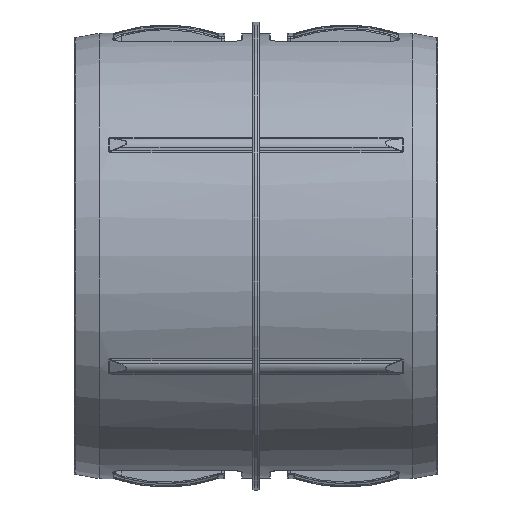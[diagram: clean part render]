
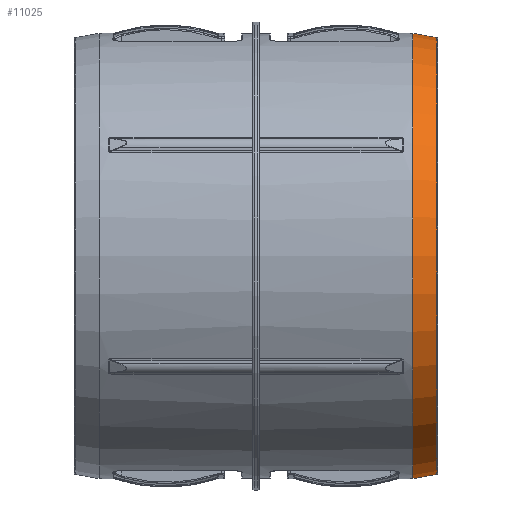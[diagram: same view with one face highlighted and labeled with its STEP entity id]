
A CAD part, top view. The second image highlights one B-rep face of the part: STEP entity #11025.
In plain terms, the highlighted conical face has half-angle 10 degrees and reference radius 66.728 mm.
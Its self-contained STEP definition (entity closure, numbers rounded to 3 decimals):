
#1286 = EDGE_CURVE ( 'NONE', #8245, #7860, #5102, .T. ) ;
#1535 = AXIS2_PLACEMENT_3D ( 'NONE', #4252, #14344, #5750 ) ;
#2096 = AXIS2_PLACEMENT_3D ( 'NONE', #10943, #10857, #15254 ) ;
#3222 = EDGE_LOOP ( 'NONE', ( #8310, #7821, #5783, #9798 ) ) ;
#3589 = DIRECTION ( 'NONE',  ( -0.985, -0.174, 0. ) ) ;
#4147 = FACE_OUTER_BOUND ( 'NONE', #3222, .T. ) ;
#4252 = CARTESIAN_POINT ( 'NONE',  ( 55.5, 0., 0. ) ) ;
#5080 = CONICAL_SURFACE ( 'NONE', #1535, 66.728, 0.175 ) ;
#5102 = LINE ( 'NONE', #16432, #9618 ) ;
#5379 = VECTOR ( 'NONE', #12195, 1000. ) ;
#5750 = DIRECTION ( 'NONE',  ( 0., -1., 0. ) ) ;
#5783 = ORIENTED_EDGE ( 'NONE', *, *, #9424, .F. ) ;
#6911 = AXIS2_PLACEMENT_3D ( 'NONE', #10094, #8612, #14302 ) ;
#7303 = VERTEX_POINT ( 'NONE', #13898 ) ;
#7821 = ORIENTED_EDGE ( 'NONE', *, *, #8292, .T. ) ;
#7860 = VERTEX_POINT ( 'NONE', #13945 ) ;
#8245 = VERTEX_POINT ( 'NONE', #14533 ) ;
#8292 = EDGE_CURVE ( 'NONE', #7303, #18059, #13409, .T. ) ;
#8310 = ORIENTED_EDGE ( 'NONE', *, *, #12923, .T. ) ;
#8612 = DIRECTION ( 'NONE',  ( -1., 0., 0. ) ) ;
#9424 = EDGE_CURVE ( 'NONE', #7860, #18059, #11386, .T. ) ;
#9618 = VECTOR ( 'NONE', #3589, 1000. ) ;
#9798 = ORIENTED_EDGE ( 'NONE', *, *, #1286, .F. ) ;
#10094 = CARTESIAN_POINT ( 'NONE',  ( 55.335, 0., 0. ) ) ;
#10201 = CIRCLE ( 'NONE', #6911, 66.757 ) ;
#10857 = DIRECTION ( 'NONE',  ( -1., 0., 0. ) ) ;
#10943 = CARTESIAN_POINT ( 'NONE',  ( 48., 0., 0. ) ) ;
#11025 = ADVANCED_FACE ( 'NONE', ( #4147 ), #5080, .T. ) ;
#11386 = CIRCLE ( 'NONE', #2096, 68.05 ) ;
#12195 = DIRECTION ( 'NONE',  ( -0.985, 0.174, 0. ) ) ;
#12923 = EDGE_CURVE ( 'NONE', #8245, #7303, #10201, .T. ) ;
#13409 = LINE ( 'NONE', #16408, #5379 ) ;
#13898 = CARTESIAN_POINT ( 'NONE',  ( 55.335, 66.757, 0. ) ) ;
#13945 = CARTESIAN_POINT ( 'NONE',  ( 48., -68.05, 0. ) ) ;
#14302 = DIRECTION ( 'NONE',  ( 0., 1., 0. ) ) ;
#14344 = DIRECTION ( 'NONE',  ( -1., 0., 0. ) ) ;
#14533 = CARTESIAN_POINT ( 'NONE',  ( 55.335, -66.757, 0. ) ) ;
#15254 = DIRECTION ( 'NONE',  ( 0., -1., 0. ) ) ;
#16408 = CARTESIAN_POINT ( 'NONE',  ( 55.5, 66.728, 0. ) ) ;
#16432 = CARTESIAN_POINT ( 'NONE',  ( 55.5, -66.728, 0. ) ) ;
#17824 = CARTESIAN_POINT ( 'NONE',  ( 48., 68.05, 0. ) ) ;
#18059 = VERTEX_POINT ( 'NONE', #17824 ) ;
